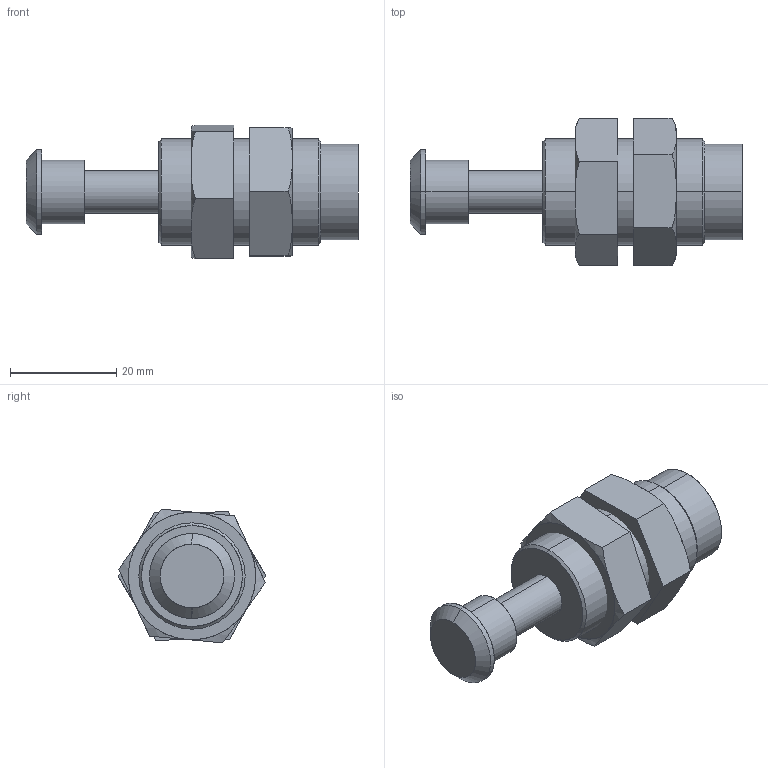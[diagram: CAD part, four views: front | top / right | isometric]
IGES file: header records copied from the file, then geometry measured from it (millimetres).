
Start section: SolidWorks IGES file using analytic representation for surfaces
Global section: file name: C:\Users\Sam Lin\Desktop\48\FSAE-2010.IGS; native system: SolidWorks 2013; preprocessor: SolidWorks 2013; author: Sam Lin; date: 160317.152515; units: metre
Bounding box: 62.5 x 27.71 x 25.16 mm (x, y, z)
Surface area: 7094.9 mm2 (no closed solid volume)
Topology: 0 solids, 0 shells, 54 faces, 876 edges, 876 vertices
Faces by surface type: bspline 34, revolution 20
